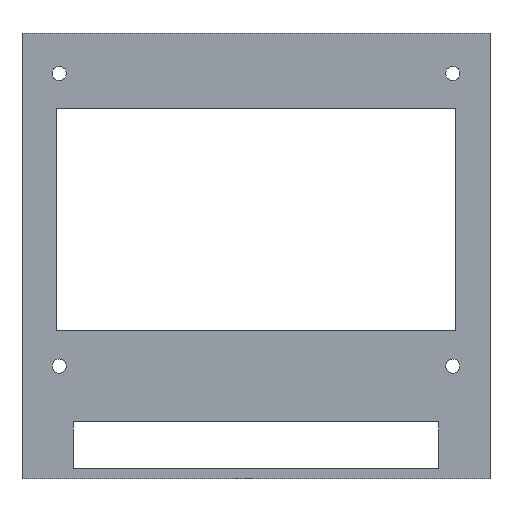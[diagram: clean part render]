
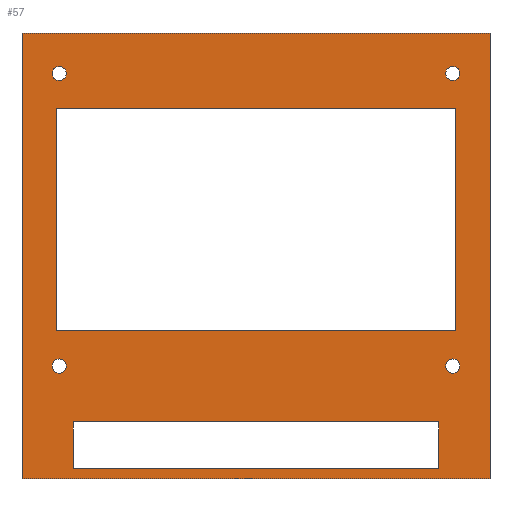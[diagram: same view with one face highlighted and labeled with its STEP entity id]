
A CAD part, front view. The second image highlights one B-rep face of the part: STEP entity #57.
In plain terms, the highlighted planar face has unit normal (0, -1, 0).
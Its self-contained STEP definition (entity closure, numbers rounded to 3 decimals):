
#21 = EDGE_CURVE('',#22,#24,#26,.T.);
#22 = VERTEX_POINT('',#23);
#23 = CARTESIAN_POINT('',(0.,-2.,0.));
#24 = VERTEX_POINT('',#25);
#25 = CARTESIAN_POINT('',(0.,-2.,172.27));
#26 = LINE('',#27,#28);
#27 = CARTESIAN_POINT('',(0.,-2.,0.));
#28 = VECTOR('',#29,1.);
#29 = DIRECTION('',(0.,0.,1.));
#57 = ADVANCED_FACE('',(#58,#83,#94,#105,#139,#150,#184),#195,.F.);
#58 = FACE_BOUND('',#59,.F.);
#59 = EDGE_LOOP('',(#60,#68,#69,#77));
#60 = ORIENTED_EDGE('',*,*,#61,.F.);
#61 = EDGE_CURVE('',#22,#62,#64,.T.);
#62 = VERTEX_POINT('',#63);
#63 = CARTESIAN_POINT('',(180.9,-2.,0.));
#64 = LINE('',#65,#66);
#65 = CARTESIAN_POINT('',(0.,-2.,0.));
#66 = VECTOR('',#67,1.);
#67 = DIRECTION('',(1.,0.,-0.));
#68 = ORIENTED_EDGE('',*,*,#21,.T.);
#69 = ORIENTED_EDGE('',*,*,#70,.T.);
#70 = EDGE_CURVE('',#24,#71,#73,.T.);
#71 = VERTEX_POINT('',#72);
#72 = CARTESIAN_POINT('',(180.9,-2.,172.27));
#73 = LINE('',#74,#75);
#74 = CARTESIAN_POINT('',(0.,-2.,172.27));
#75 = VECTOR('',#76,1.);
#76 = DIRECTION('',(1.,0.,-0.));
#77 = ORIENTED_EDGE('',*,*,#78,.F.);
#78 = EDGE_CURVE('',#62,#71,#79,.T.);
#79 = LINE('',#80,#81);
#80 = CARTESIAN_POINT('',(180.9,-2.,0.));
#81 = VECTOR('',#82,1.);
#82 = DIRECTION('',(0.,0.,1.));
#83 = FACE_BOUND('',#84,.F.);
#84 = EDGE_LOOP('',(#85));
#85 = ORIENTED_EDGE('',*,*,#86,.F.);
#86 = EDGE_CURVE('',#87,#87,#89,.T.);
#87 = VERTEX_POINT('',#88);
#88 = CARTESIAN_POINT('',(14.4,-2.,46.335));
#89 = CIRCLE('',#90,2.75);
#90 = AXIS2_PLACEMENT_3D('',#91,#92,#93);
#91 = CARTESIAN_POINT('',(14.4,-2.,43.585));
#92 = DIRECTION('',(0.,1.,0.));
#93 = DIRECTION('',(0.,-0.,1.));
#94 = FACE_BOUND('',#95,.F.);
#95 = EDGE_LOOP('',(#96));
#96 = ORIENTED_EDGE('',*,*,#97,.F.);
#97 = EDGE_CURVE('',#98,#98,#100,.T.);
#98 = VERTEX_POINT('',#99);
#99 = CARTESIAN_POINT('',(14.4,-2.,159.435));
#100 = CIRCLE('',#101,2.75);
#101 = AXIS2_PLACEMENT_3D('',#102,#103,#104);
#102 = CARTESIAN_POINT('',(14.4,-2.,156.685));
#103 = DIRECTION('',(0.,1.,0.));
#104 = DIRECTION('',(0.,-0.,1.));
#105 = FACE_BOUND('',#106,.F.);
#106 = EDGE_LOOP('',(#107,#117,#125,#133));
#107 = ORIENTED_EDGE('',*,*,#108,.F.);
#108 = EDGE_CURVE('',#109,#111,#113,.T.);
#109 = VERTEX_POINT('',#110);
#110 = CARTESIAN_POINT('',(19.85,-2.,22.));
#111 = VERTEX_POINT('',#112);
#112 = CARTESIAN_POINT('',(161.05,-2.,22.));
#113 = LINE('',#114,#115);
#114 = CARTESIAN_POINT('',(9.925,-2.,22.));
#115 = VECTOR('',#116,1.);
#116 = DIRECTION('',(1.,0.,-0.));
#117 = ORIENTED_EDGE('',*,*,#118,.T.);
#118 = EDGE_CURVE('',#109,#119,#121,.T.);
#119 = VERTEX_POINT('',#120);
#120 = CARTESIAN_POINT('',(19.85,-2.,4.));
#121 = LINE('',#122,#123);
#122 = CARTESIAN_POINT('',(19.85,-2.,2.));
#123 = VECTOR('',#124,1.);
#124 = DIRECTION('',(-0.,0.,-1.));
#125 = ORIENTED_EDGE('',*,*,#126,.T.);
#126 = EDGE_CURVE('',#119,#127,#129,.T.);
#127 = VERTEX_POINT('',#128);
#128 = CARTESIAN_POINT('',(161.05,-2.,4.));
#129 = LINE('',#130,#131);
#130 = CARTESIAN_POINT('',(9.925,-2.,4.));
#131 = VECTOR('',#132,1.);
#132 = DIRECTION('',(1.,0.,-0.));
#133 = ORIENTED_EDGE('',*,*,#134,.F.);
#134 = EDGE_CURVE('',#111,#127,#135,.T.);
#135 = LINE('',#136,#137);
#136 = CARTESIAN_POINT('',(161.05,-2.,2.));
#137 = VECTOR('',#138,1.);
#138 = DIRECTION('',(-0.,0.,-1.));
#139 = FACE_BOUND('',#140,.F.);
#140 = EDGE_LOOP('',(#141));
#141 = ORIENTED_EDGE('',*,*,#142,.F.);
#142 = EDGE_CURVE('',#143,#143,#145,.T.);
#143 = VERTEX_POINT('',#144);
#144 = CARTESIAN_POINT('',(166.5,-2.,46.335));
#145 = CIRCLE('',#146,2.75);
#146 = AXIS2_PLACEMENT_3D('',#147,#148,#149);
#147 = CARTESIAN_POINT('',(166.5,-2.,43.585));
#148 = DIRECTION('',(0.,1.,0.));
#149 = DIRECTION('',(0.,-0.,1.));
#150 = FACE_BOUND('',#151,.F.);
#151 = EDGE_LOOP('',(#152,#162,#170,#178));
#152 = ORIENTED_EDGE('',*,*,#153,.F.);
#153 = EDGE_CURVE('',#154,#156,#158,.T.);
#154 = VERTEX_POINT('',#155);
#155 = CARTESIAN_POINT('',(13.345,-2.,143.095));
#156 = VERTEX_POINT('',#157);
#157 = CARTESIAN_POINT('',(167.555,-2.,143.095));
#158 = LINE('',#159,#160);
#159 = CARTESIAN_POINT('',(6.673,-2.,143.095));
#160 = VECTOR('',#161,1.);
#161 = DIRECTION('',(1.,0.,-0.));
#162 = ORIENTED_EDGE('',*,*,#163,.T.);
#163 = EDGE_CURVE('',#154,#164,#166,.T.);
#164 = VERTEX_POINT('',#165);
#165 = CARTESIAN_POINT('',(13.345,-2.,57.175));
#166 = LINE('',#167,#168);
#167 = CARTESIAN_POINT('',(13.345,-2.,28.588));
#168 = VECTOR('',#169,1.);
#169 = DIRECTION('',(-0.,0.,-1.));
#170 = ORIENTED_EDGE('',*,*,#171,.T.);
#171 = EDGE_CURVE('',#164,#172,#174,.T.);
#172 = VERTEX_POINT('',#173);
#173 = CARTESIAN_POINT('',(167.555,-2.,57.175));
#174 = LINE('',#175,#176);
#175 = CARTESIAN_POINT('',(6.673,-2.,57.175));
#176 = VECTOR('',#177,1.);
#177 = DIRECTION('',(1.,0.,-0.));
#178 = ORIENTED_EDGE('',*,*,#179,.F.);
#179 = EDGE_CURVE('',#156,#172,#180,.T.);
#180 = LINE('',#181,#182);
#181 = CARTESIAN_POINT('',(167.555,-2.,28.588));
#182 = VECTOR('',#183,1.);
#183 = DIRECTION('',(-0.,0.,-1.));
#184 = FACE_BOUND('',#185,.F.);
#185 = EDGE_LOOP('',(#186));
#186 = ORIENTED_EDGE('',*,*,#187,.F.);
#187 = EDGE_CURVE('',#188,#188,#190,.T.);
#188 = VERTEX_POINT('',#189);
#189 = CARTESIAN_POINT('',(166.5,-2.,159.435));
#190 = CIRCLE('',#191,2.75);
#191 = AXIS2_PLACEMENT_3D('',#192,#193,#194);
#192 = CARTESIAN_POINT('',(166.5,-2.,156.685));
#193 = DIRECTION('',(0.,1.,0.));
#194 = DIRECTION('',(0.,-0.,1.));
#195 = PLANE('',#196);
#196 = AXIS2_PLACEMENT_3D('',#197,#198,#199);
#197 = CARTESIAN_POINT('',(0.,-2.,0.));
#198 = DIRECTION('',(-0.,1.,0.));
#199 = DIRECTION('',(0.,0.,1.));
